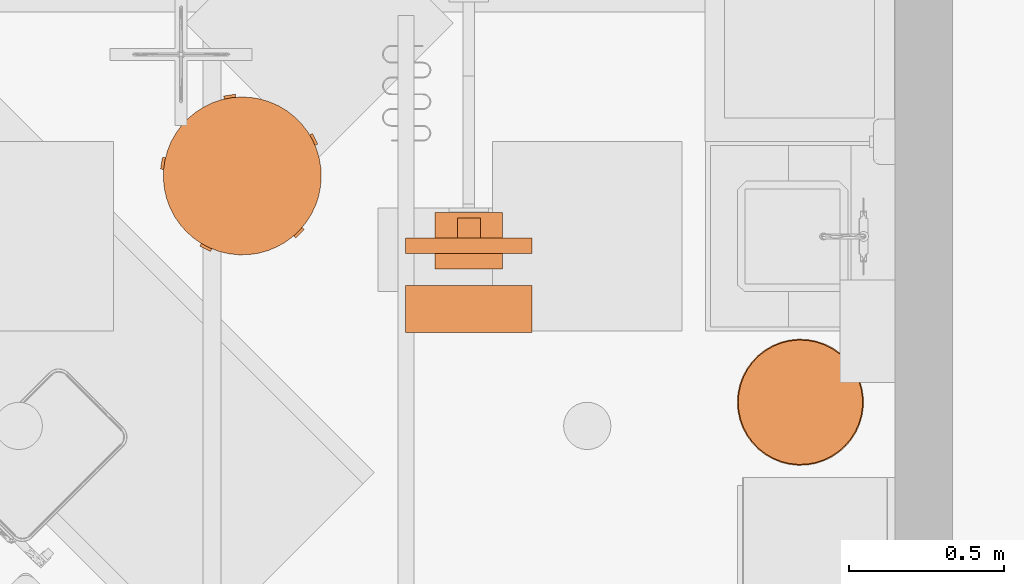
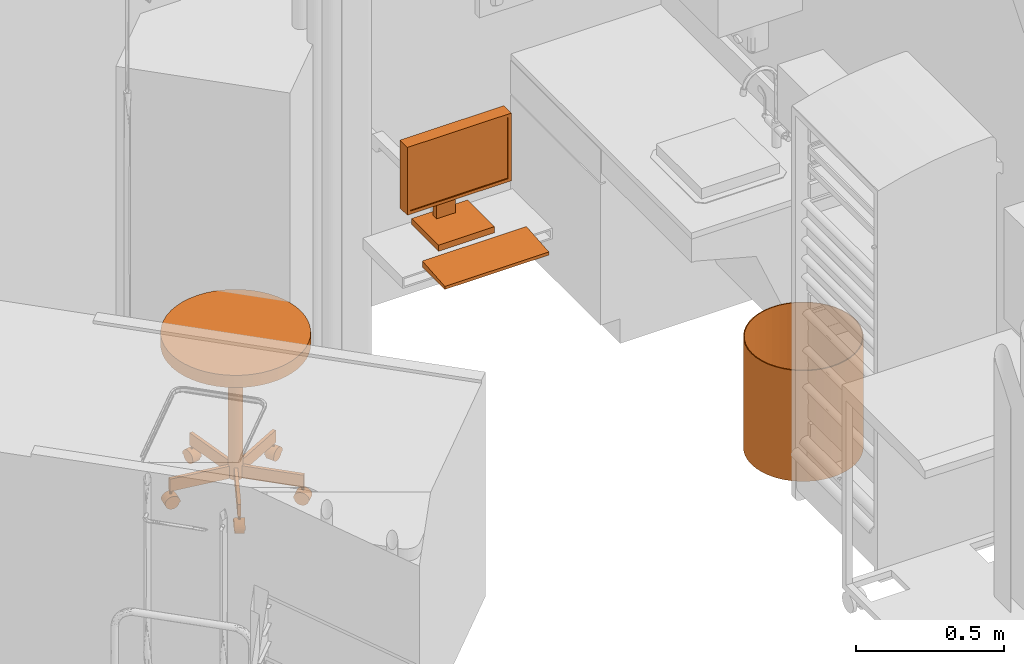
# One storey, part 75 of 142: 3 proxies.
"""IFC2X3 building model written with IfcOpenShell, lengths in feet."""

from ifc_helpers import new_model, entity, si_unit, converted_unit, derived_unit, direction, frame, frame_2d, origin, origin_2d_with_axis, place, context, subcontext, project, spatial, polyline, circle_curve, parameter, trimmed, segment, composite_curve, rectangle, circle, hollow_circle, outline, extrude, faceted_brep, source, transform, mapped, type_object, type_shapes, element, save


model = new_model("IFC2X3")

# Units and contexts
model_context = context("Model", 3, precision=0.0001, world=origin(), true_north=direction((6.12303176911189e-17, 1.0)))
body_context = subcontext(model_context, "Body", "Model", "MODEL_VIEW")
ifc_project = project(units=[converted_unit("LENGTHUNIT", "FOOT", entity("IfcRatioMeasure", 0.3048), si_unit("LENGTHUNIT", "METRE"), dimensions=[1, 0, 0, 0, 0, 0, 0]), converted_unit("AREAUNIT", "SQUARE FOOT", entity("IfcRatioMeasure", 0.09290304), si_unit("AREAUNIT", "SQUARE_METRE"), dimensions=[2, 0, 0, 0, 0, 0, 0]), converted_unit("VOLUMEUNIT", "CUBIC FOOT", entity("IfcRatioMeasure", 0.028316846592), si_unit("VOLUMEUNIT", "CUBIC_METRE"), dimensions=[3, 0, 0, 0, 0, 0, 0]), converted_unit("PLANEANGLEUNIT", "DEGREE", entity("IfcRatioMeasure", 0.0174532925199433), si_unit("PLANEANGLEUNIT", "RADIAN"), dimensions=[0, 0, 0, 0, 0, 0, 0]), si_unit("MASSUNIT", "GRAM", prefix="KILO"), derived_unit("MASSDENSITYUNIT", [(si_unit("MASSUNIT", "GRAM", prefix="KILO"), 1), (si_unit("LENGTHUNIT", "METRE"), -3)]), si_unit("TIMEUNIT", "SECOND"), si_unit("FREQUENCYUNIT", "HERTZ"), si_unit("THERMODYNAMICTEMPERATUREUNIT", "DEGREE_CELSIUS"), derived_unit("THERMALTRANSMITTANCEUNIT", [(si_unit("MASSUNIT", "GRAM", prefix="KILO"), 1), (si_unit("THERMODYNAMICTEMPERATUREUNIT", "KELVIN"), -1), (si_unit("TIMEUNIT", "SECOND"), -3)]), derived_unit("VOLUMETRICFLOWRATEUNIT", [(si_unit("LENGTHUNIT", "METRE"), 3), (si_unit("TIMEUNIT", "SECOND"), -1)]), si_unit("ELECTRICCURRENTUNIT", "AMPERE"), si_unit("ELECTRICVOLTAGEUNIT", "VOLT"), si_unit("POWERUNIT", "WATT"), si_unit("FORCEUNIT", "NEWTON"), si_unit("ILLUMINANCEUNIT", "LUX"), si_unit("LUMINOUSFLUXUNIT", "LUMEN"), si_unit("LUMINOUSINTENSITYUNIT", "CANDELA"), derived_unit("USERDEFINED", [(si_unit("MASSUNIT", "GRAM", prefix="KILO"), -1), (si_unit("LENGTHUNIT", "METRE"), -2), (si_unit("TIMEUNIT", "SECOND"), 3), (si_unit("LUMINOUSFLUXUNIT", "LUMEN"), 1)]), derived_unit("LINEARVELOCITYUNIT", [(si_unit("LENGTHUNIT", "METRE"), 1), (si_unit("TIMEUNIT", "SECOND"), -1)]), si_unit("PRESSUREUNIT", "PASCAL"), derived_unit("USERDEFINED", [(si_unit("LENGTHUNIT", "METRE"), -2), (si_unit("MASSUNIT", "GRAM", prefix="KILO"), 1), (si_unit("TIMEUNIT", "SECOND"), -2)])], contexts=[model_context])

# Site, building, storey, space
site_placement = place(None, origin())
site = spatial("IfcSite", under=ifc_project, at=site_placement, Name="Default", CompositionType="ELEMENT")
building_placement = place(site_placement, origin())
building = spatial("IfcBuilding", under=site, at=building_placement, Name="OUTPATIENT / PACT CLINIC (Ch. 265)", CompositionType="ELEMENT")
storey_placement = place(building_placement, origin())
storey = spatial("IfcBuildingStorey", under=building, at=storey_placement, Name="LEVEL 1", CompositionType="ELEMENT", Elevation=0.0)
space_placement = place(storey_placement, origin())
space = spatial("IfcSpace", under=storey, at=space_placement, Name="TRPR1", CompositionType="ELEMENT", InteriorOrExteriorSpace="INTERNAL")

# Proxies
building_element_proxy_type_1 = type_object("IfcBuildingElementProxyType", Name="F2000 - Basket, Wastepaper", PredefinedType="NOTDEFINED")
shared_shape_1 = source(origin(), body_context, "Body", "SweptSolid", [
    extrude(circle(Radius=0.666666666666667, at=frame_2d((0.0, -3.14944602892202e-15), x_axis=(1.0, 0.0))), origin(), (0.0, 0.0, 1.0), 0.0104166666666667),
    extrude(hollow_circle(Radius=0.666666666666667, WallThickness=0.0104166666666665, at=frame_2d((0.0, -3.14944602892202e-15), x_axis=(1.0, 0.0))), frame((0.0, 0.0, 0.0104166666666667)), (0.0, 0.0, 1.0), 1.48958333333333),
])
type_shapes(building_element_proxy_type_1, [shared_shape_1])
proxy_1_placement = place(space_placement, frame((402.463309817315, -936.795518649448, 0.0), z_axis=(0.0, 0.0, 1.0), x_axis=(-1.0, 0.0, 0.0)))
element("IfcBuildingElementProxy", 1, at=proxy_1_placement, inside=space, type_object=building_element_proxy_type_1, Name="F2000 - Basket, Wastepaper:F2000 - Basket, Wastepaper", ObjectType="F2000 - Basket, Wastepaper", context=body_context, shape_type="MappedRepresentation", body=[
    mapped(shared_shape_1, transform((0.0, 0.0, 0.0), scale=1.0)),
])
building_element_proxy_type_2 = type_object("IfcBuildingElementProxyType", Name="M1801 - Computer with Flat Panel Monitor", PredefinedType="NOTDEFINED")
shared_shape_2 = source(origin(), body_context, "Body", "Brep", [
    faceted_brep([(0.666666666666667, -0.5625, 0.0), (0.666666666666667, -0.0624999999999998, 0.0), (0.666666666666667, -0.0624999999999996, 0.0833333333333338), (0.666666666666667, -0.5625, 0.0416666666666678), (-0.666666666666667, -0.5625, 0.0), (-0.666666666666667, -0.5625, 0.0416666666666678), (-0.666666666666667, -0.0624999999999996, 0.0833333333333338), (-0.666666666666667, -0.0624999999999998, 0.0)], [[[0, 1, 2, 3]], [[4, 5, 6, 7]], [[1, 0, 4, 7]], [[2, 1, 7, 6]], [[3, 2, 6, 5]], [[0, 3, 5, 4]]]),
    faceted_brep([(0.666666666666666, 0.437223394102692, 1.41666666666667), (-0.666666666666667, 0.437223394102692, 1.41666666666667), (-0.666666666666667, 0.271109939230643, 1.41666666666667), (0.666666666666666, 0.271109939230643, 1.41666666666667), (0.666666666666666, 0.437223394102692, 0.500000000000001), (0.666666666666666, 0.271109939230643, 0.500000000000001), (-0.666666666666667, 0.271109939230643, 0.500000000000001), (-0.666666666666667, 0.437223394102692, 0.500000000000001), (-0.625, 0.271109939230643, 1.375), (0.625, 0.271109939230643, 1.375), (0.625, 0.271109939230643, 0.541666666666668), (-0.625, 0.271109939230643, 0.541666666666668), (0.625, 0.286812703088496, 1.375), (-0.625, 0.286812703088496, 1.375), (0.625, 0.286812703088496, 0.541666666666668), (-0.625, 0.286812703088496, 0.541666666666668)], [[[0, 1, 2, 3]], [[4, 5, 6, 7]], [[1, 0, 4, 7]], [[2, 1, 7, 6]], [[3, 2, 6, 5], [8, 9, 10, 11]], [[0, 3, 5, 4]], [[12, 9, 8, 13]], [[14, 15, 11, 10]], [[12, 13, 15, 14]], [[13, 8, 11, 15]], [[9, 12, 14, 10]]]),
    faceted_brep([(0.358011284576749, 0.111770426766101, 0.0833333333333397), (0.358011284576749, 0.111770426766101, 0.0), (0.358011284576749, 0.708333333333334, 0.0), (0.358011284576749, 0.708333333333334, 0.0833333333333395), (-0.358011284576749, 0.708333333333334, 0.0833333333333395), (-0.358011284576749, 0.708333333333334, 0.0), (-0.358011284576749, 0.111770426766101, 0.0), (-0.358011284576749, 0.111770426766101, 0.0833333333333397), (0.12128795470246, 0.645556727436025, 0.104166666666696), (0.12128795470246, 0.645556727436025, 0.0833333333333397), (-0.12128795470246, 0.645556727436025, 0.0833333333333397), (-0.12128795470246, 0.645556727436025, 0.104166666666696), (0.12128795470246, 0.645556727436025, 0.958333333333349), (-0.12128795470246, 0.645556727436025, 0.958333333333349), (0.12128795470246, 0.437223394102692, 0.958333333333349), (-0.12128795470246, 0.437223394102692, 0.958333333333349), (0.12128795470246, 0.437223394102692, 0.791666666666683), (-0.12128795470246, 0.437223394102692, 0.791666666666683), (0.12128795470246, 0.562223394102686, 0.791666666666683), (-0.12128795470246, 0.562223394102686, 0.791666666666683), (0.12128795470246, 0.562223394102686, 0.0833333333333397), (-0.12128795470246, 0.562223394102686, 0.0833333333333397)], [[[0, 1, 2, 3]], [[4, 5, 6, 7]], [[8, 9, 10, 11]], [[12, 8, 11, 13]], [[14, 12, 13, 15]], [[16, 14, 15, 17]], [[18, 16, 17, 19]], [[20, 18, 19, 21]], [[0, 3, 4, 7], [9, 20, 21, 10]], [[1, 0, 7, 6]], [[2, 1, 6, 5]], [[3, 2, 5, 4]], [[20, 9, 8, 12, 14, 16, 18]], [[10, 21, 19, 17, 15, 13, 11]]]),
])
type_shapes(building_element_proxy_type_2, [shared_shape_2])
proxy_2_placement = place(space_placement, frame((398.963309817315, -935.498643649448, 3.14583333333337)))
element("IfcBuildingElementProxy", 2, at=proxy_2_placement, inside=space, type_object=building_element_proxy_type_2, Name="M1801 - Computer with Flat Panel Monitor1:M1801 - Computer with Flat Panel Monitor", ObjectType="M1801 - Computer with Flat Panel Monitor", context=body_context, shape_type="MappedRepresentation", body=[
    mapped(shared_shape_2, transform((0.0, 0.0, 0.0), scale=1.0)),
])
building_element_proxy_type_3 = type_object("IfcBuildingElementProxyType", Name="F0340 - Stool, Self Adjusting", PredefinedType="NOTDEFINED")
shared_shape_3 = source(origin(), body_context, "Body", "SweptSolid", [
    extrude(circle(Radius=0.084518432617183, at=frame_2d((0.0, -1.38777878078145e-16), x_axis=(1.0, 0.0))), frame((0.717011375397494, 0.287734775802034, 0.0845184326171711), z_axis=(0.309016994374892, -0.951056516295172, 0.0), x_axis=(-0.951056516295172, -0.309016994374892, 0.0)), (0.0, 0.0, 1.0), 0.104166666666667),
    extrude(outline(composite_curve([segment(polyline([(-0.0925649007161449, 0.0), (0.0925649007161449, 0.0)]), True, "CONTINUOUS"), segment(trimmed(circle_curve(origin_2d_with_axis(), 0.0925649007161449), [parameter(2.03555499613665e-13)], [parameter(180.0)], True, "PARAMETER"), True, "CONTINUOUS")], self_intersect=False)), frame((0.752419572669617, 0.178759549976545, 0.0845184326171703), z_axis=(-0.309016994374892, 0.951056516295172, 0.0), x_axis=(-0.951056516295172, -0.309016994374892, 0.0)), (0.0, 0.0, 1.0), 0.125),
    extrude(circle(Radius=0.0115130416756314, at=frame_2d((7.9106571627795e-18, 1.14165428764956e-16), x_axis=(1.0, 0.0))), frame((0.73310678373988, 0.238198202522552, 0.177083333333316), z_axis=(0.0, 0.0, 1.0), x_axis=(0.309016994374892, -0.951056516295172, 0.0)), (0.0, 0.0, 1.0), 0.0442708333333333),
    extrude(rectangle(XDim=0.0416641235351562, YDim=0.7059128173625, at=frame_2d((1.38777878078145e-17, 0.0), x_axis=(1.0, 0.0))), frame((0.412570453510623, 0.134049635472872, 0.221354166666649), z_axis=(0.0, 0.0, 1.0), x_axis=(-0.309016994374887, 0.951056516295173, 0.0)), (0.0, 0.0, 1.0), 0.166666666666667),
    extrude(circle(Radius=0.084518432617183, at=frame_2d((0.0, -3.7470027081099e-16), x_axis=(1.0, 0.0))), frame((0.410948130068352, -0.654231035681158, 0.0845184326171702), z_axis=(0.809016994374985, 0.587785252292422, 0.0), x_axis=(-0.587785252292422, 0.809016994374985, 0.0)), (0.0, 0.0, 1.0), 0.104166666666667),
    extrude(outline(composite_curve([segment(polyline([(-0.0925649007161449, 0.0), (0.0925649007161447, 0.0)]), True, "CONTINUOUS"), segment(trimmed(circle_curve(origin_2d_with_axis(), 0.0925649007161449), [parameter(2.03555499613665e-13)], [parameter(180.0)], True, "PARAMETER"), True, "CONTINUOUS")], self_intersect=False)), frame((0.402520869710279, -0.660353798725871, 0.0845184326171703), z_axis=(0.809016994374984, 0.587785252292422, 0.0), x_axis=(-0.587785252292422, 0.809016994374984, 0.0)), (0.0, 0.0, 1.0), 0.125),
    extrude(circle(Radius=0.0115130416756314, at=origin_2d_with_axis()), frame((0.453082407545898, -0.623618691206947, 0.177083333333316), z_axis=(0.0, 0.0, 1.0), x_axis=(-0.809016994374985, -0.587785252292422, 0.0)), (0.0, 0.0, 1.0), 0.0442708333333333),
    extrude(rectangle(XDim=0.0416641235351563, YDim=0.705912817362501, at=frame_2d((0.0, -1.38777878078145e-16), x_axis=(1.0, 0.0))), frame((0.254980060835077, -0.350954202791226, 0.221354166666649), z_axis=(0.0, 0.0, 1.0), x_axis=(0.809016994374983, 0.587785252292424, 0.0)), (0.0, 0.0, 1.0), 0.166666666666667),
    extrude(circle(Radius=0.084518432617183, at=frame_2d((-3.2628636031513e-17, -1.38777878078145e-16), x_axis=(1.0, 0.0))), frame((-0.410948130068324, -0.654231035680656, 0.0845184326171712), z_axis=(-0.809016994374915, 0.587785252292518, 0.0), x_axis=(0.587785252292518, 0.809016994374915, 0.0)), (0.0, 0.0, 1.0), 0.104166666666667),
    extrude(outline(composite_curve([segment(trimmed(circle_curve(origin_2d_with_axis(), 0.0925649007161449), [parameter(180.0)], [parameter(360.0)], True, "PARAMETER"), True, "CONTINUOUS"), segment(polyline([(0.0925649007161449, 0.0), (-0.0925649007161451, 0.0)]), True, "CONTINUOUS")], self_intersect=False)), frame((-0.402520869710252, -0.66035379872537, 0.0845184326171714), z_axis=(-0.809016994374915, 0.587785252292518, 0.0), x_axis=(0.587785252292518, 0.809016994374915, 0.0)), (0.0, 0.0, 1.0), 0.125),
    extrude(circle(Radius=0.0115130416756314, at=frame_2d((-4.49094647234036e-17, -3.2628636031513e-17), x_axis=(1.0, 0.0))), frame((-0.453086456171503, -0.623615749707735, 0.177083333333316), z_axis=(0.0, 0.0, 1.0), x_axis=(-0.809016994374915, 0.587785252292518, 0.0)), (0.0, 0.0, 1.0), 0.0442708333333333),
    extrude(rectangle(XDim=0.0416641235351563, YDim=0.7059128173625, at=frame_2d((-4.16333634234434e-17, 5.55111512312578e-17), x_axis=(1.0, 0.0))), frame((-0.254984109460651, -0.350951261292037, 0.221354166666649), z_axis=(0.0, 0.0, 1.0), x_axis=(0.809016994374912, -0.587785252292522, 0.0)), (0.0, 0.0, 1.0), 0.166666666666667),
    extrude(circle(Radius=0.084518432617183, at=frame_2d((0.0, -1.38777878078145e-16), x_axis=(1.0, 0.0))), frame((-0.749200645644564, 0.188666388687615, 0.0845184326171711), z_axis=(0.309016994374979, 0.951056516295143, 0.0), x_axis=(0.951056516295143, -0.309016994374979, 0.0)), (0.0, 0.0, 1.0), 0.104166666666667),
    extrude(outline(composite_curve([segment(trimmed(circle_curve(origin_2d_with_axis(), 0.0925649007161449), [parameter(180.0)], [parameter(360.0)], True, "PARAMETER"), True, "CONTINUOUS"), segment(polyline([(0.0925649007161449, 0.0), (-0.0925649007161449, 0.0)]), True, "CONTINUOUS")], self_intersect=False)), frame((-0.752419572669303, 0.178759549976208, 0.0845184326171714), z_axis=(0.309016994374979, 0.951056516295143, 0.0), x_axis=(0.951056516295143, -0.309016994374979, 0.0)), (0.0, 0.0, 1.0), 0.125),
    extrude(circle(Radius=0.0115130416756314, at=frame_2d((7.91065716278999e-18, -1.14165428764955e-16), x_axis=(1.0, 0.0))), frame((-0.733105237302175, 0.238202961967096, 0.177083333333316), z_axis=(0.0, 0.0, 1.0), x_axis=(0.309016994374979, 0.951056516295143, 0.0)), (0.0, 0.0, 1.0), 0.0442708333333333),
    extrude(rectangle(XDim=0.0416641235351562, YDim=0.7059128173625, at=origin_2d_with_axis()), frame((-0.412568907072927, 0.134054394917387, 0.221354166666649), z_axis=(0.0, 0.0, 1.0), x_axis=(-0.309016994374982, -0.951056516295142, 0.0)), (0.0, 0.0, 1.0), 0.166666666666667),
    extrude(circle(Radius=0.084518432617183, at=frame_2d((-1.76415182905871e-31, -1.38777878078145e-16), x_axis=(1.0, 0.0))), frame((-0.0520833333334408, 0.770833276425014, 0.0845184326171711), z_axis=(1.0, 0.0, 0.0), x_axis=(0.0, -1.0, 0.0)), (0.0, 0.0, 1.0), 0.104166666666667),
    extrude(outline(composite_curve([segment(trimmed(circle_curve(origin_2d_with_axis(), 0.0925649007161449), [parameter(180.0)], [parameter(360.0)], True, "PARAMETER"), True, "CONTINUOUS"), segment(polyline([(0.0925649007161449, 0.0), (-0.0925649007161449, 0.0)]), True, "CONTINUOUS")], self_intersect=False)), frame((-0.0625000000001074, 0.770833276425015, 0.0845184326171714), z_axis=(1.0, 0.0, 0.0), x_axis=(0.0, -1.0, 0.0)), (0.0, 0.0, 1.0), 0.125),
    extrude(circle(Radius=0.0115130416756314, at=frame_2d((7.04731412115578e-19, 1.79171670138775e-32), x_axis=(1.0, 0.0))), frame((2.50218814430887e-06, 0.770833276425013, 0.177083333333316)), (0.0, 0.0, 1.0), 0.0442708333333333),
    extrude(rectangle(XDim=0.0416641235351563, YDim=0.7059128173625, at=frame_2d((3.46944695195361e-18, 5.55111512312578e-17), x_axis=(1.0, 0.0))), frame((2.50218813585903e-06, 0.433801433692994, 0.221354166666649), z_axis=(0.0, 0.0, 1.0), x_axis=(-1.0, 0.0, 0.0)), (0.0, 0.0, 1.0), 0.166666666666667),
    extrude(circle(Radius=0.0834863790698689, at=frame_2d((2.89333175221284e-18, -1.34875966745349e-16), x_axis=(1.0, 0.0))), frame((0.0, 0.0, 0.221354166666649)), (0.0, 0.0, 1.0), 1.77864583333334),
    extrude(circle(Radius=0.833333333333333, at=frame_2d((2.28760446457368e-17, -1.34628714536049e-15), x_axis=(1.0, 0.0))), frame((0.0, 0.0, 2.0)), (0.0, 0.0, 1.0), 0.166666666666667),
])
type_shapes(building_element_proxy_type_3, [shared_shape_3])
proxy_3_placement = place(space_placement, frame((396.572460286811, -934.407074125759, 0.0), z_axis=(0.0, 0.0, 1.0), x_axis=(-0.707106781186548, -0.707106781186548, 0.0)))
element("IfcBuildingElementProxy", 3, at=proxy_3_placement, inside=space, type_object=building_element_proxy_type_3, Name="F0340 - Stool, Self Adjusting:F0340 - Stool, Self Adjusting", ObjectType="F0340 - Stool, Self Adjusting", context=body_context, shape_type="MappedRepresentation", body=[
    mapped(shared_shape_3, transform((0.0, 0.0, 0.0), scale=1.0)),
])

save(model, "model.ifc")
